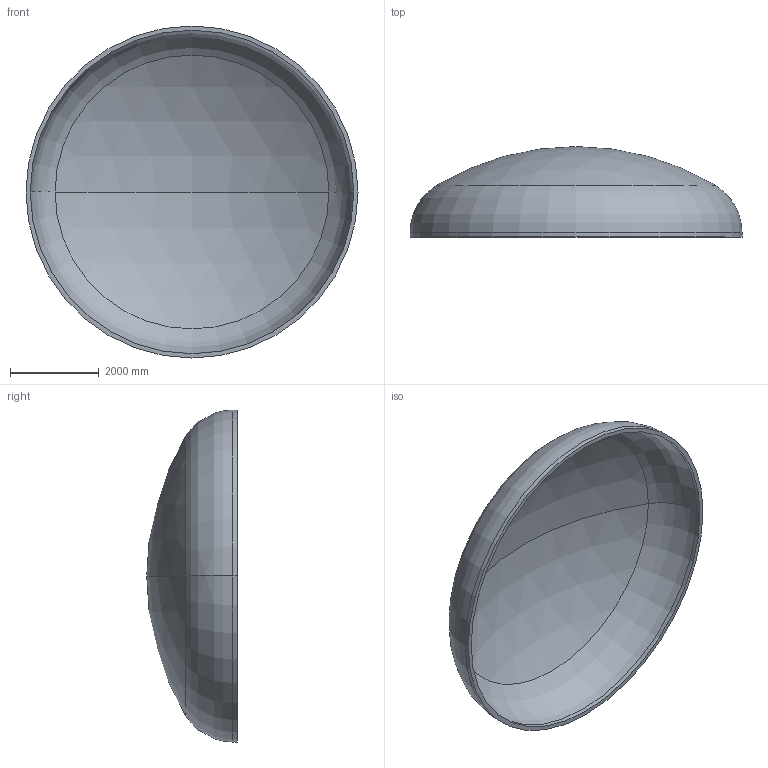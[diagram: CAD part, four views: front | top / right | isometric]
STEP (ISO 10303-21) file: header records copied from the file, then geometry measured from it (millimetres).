
FILE_DESCRIPTION (( 'STEP AP203' ), '1' );
FILE_NAME ('DIN 28013 Korbbogenform_-_Boden DIN 28013 - 7500 x 100 - I - s=96.step', '2016-07-04T10:56:47', ( '' ), ( '' ), 'SwSTEP 2.0', 'SolidWorks 2013', '' );
FILE_SCHEMA (( 'CONFIG_CONTROL_DESIGN' ));
Length unit declared in the file: millimetre
Products named in the file (1): DIN 28013 Korbbogenform_-_Boden DIN 28013 - 7500 x 100 - I - s=96
Bounding box: 7500 x 2045.21 x 7500 mm (x, y, z)
Volume: 5998682215.2 mm3; surface area: 127224794 mm2
Topology: 1 solids, 1 shells, 13 faces, 24 edges, 14 vertices
Faces by surface type: torus 4, cylinder 4, sphere 4, plane 1
Entity records: 407 total; most frequent: DIRECTION 72, CARTESIAN_POINT 52, ORIENTED_EDGE 48, AXIS2_PLACEMENT_3D 34, EDGE_CURVE 24, CIRCLE 20, EDGE_LOOP 14, VERTEX_POINT 14
